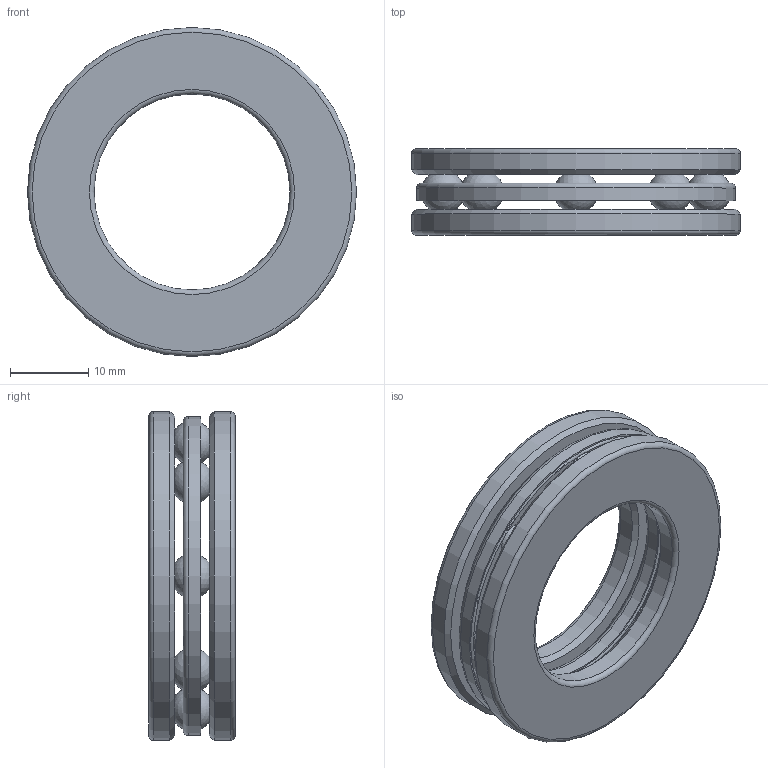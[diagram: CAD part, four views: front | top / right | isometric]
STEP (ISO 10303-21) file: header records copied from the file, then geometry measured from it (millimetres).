
FILE_DESCRIPTION(/* description */ (''),/* implementation_level */ '2;1');
FILE_NAME(/* name */ 'D:\moje\parametrické\511--\511--_\51105.stp',/* time_stamp */ '2016-08-17T07:19:02+02:00',/* author */ ('OUBALASKO'),/* organization */ (''),/* preprocessor_version */ 'ST-DEVELOPER v15.6',/* originating_system */ 'Autodesk Inventor 2015',/* authorisation */ '');
FILE_SCHEMA (('AUTOMOTIVE_DESIGN { 1 0 10303 214 3 1 1 }'));
Length unit declared in the file: millimetre
Products named in the file (7): 51105-HK; 51105-TK; 51105-ball; 51105-cage01; 51105-cage02; 51105-cage; 51105
Assembly tree (13 placements, depth 3):
  51105
    51105-HK
    51105-TK
    51105-ball  x8
    51105-cage
      51105-cage01
      51105-cage02
Bounding box: 42 x 11 x 42 mm (x, y, z)
Volume: 6392.1 mm3; surface area: 8884 mm2
Topology: 12 solids, 12 shells, 91 faces, 186 edges, 116 vertices
Faces by surface type: plane 37, sphere 24, torus 14, cylinder 12, cone 4
Full cylindrical faces by diameter (mm): 25 x1, 26 x1, 27.299 x1, 27.688 x1, 27.777 x1, 28.166 x1, 39.834 x1, 40.223 x1, 40.312 x1, 40.701 x1, 42 x2
Entity records: 2314 total; most frequent: DIRECTION 470, CARTESIAN_POINT 335, ORIENTED_EDGE 262, AXIS2_PLACEMENT_3D 235, EDGE_LOOP 167, CIRCLE 131, EDGE_CURVE 131, VERTEX_POINT 100
